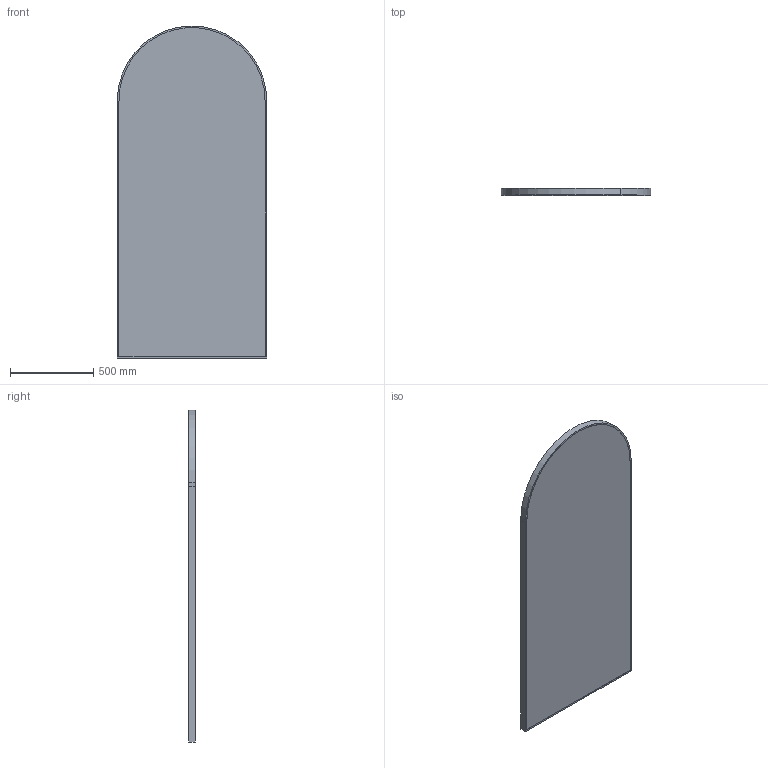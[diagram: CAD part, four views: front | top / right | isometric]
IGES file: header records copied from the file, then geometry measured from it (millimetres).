
Start section: Data from Parasolid IGES Translator 22.0.50, Copyright(c) 2006 Siemens P LM Software. All Rights Reserved.
Global section: file name: noorth-mirror-H 210 D 2,8 W 81_4859.igs; native system: By Siemens PLM Incorporated; preprocessor: XPlus GENERIC/IGES 22.0.50; author: Noname; organization: Noname; date: 20250803.150452; units: metre
Bounding box: 900.05 x 41.07 x 1999.38 mm (x, y, z)
Volume: 32832121.4 mm3; surface area: 7270388.9 mm2
Topology: 3 solids, 3 shells, 28 faces, 66 edges, 44 vertices
Faces by surface type: plane 23, cylinder 5
